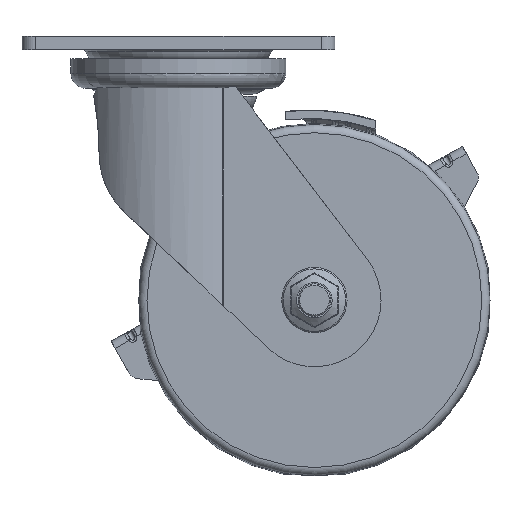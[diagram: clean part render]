
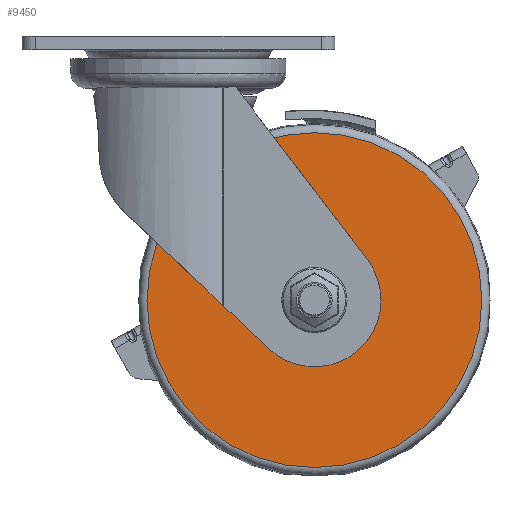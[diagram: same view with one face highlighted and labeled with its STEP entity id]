
A CAD part, front view. The second image highlights one B-rep face of the part: STEP entity #9450.
In plain terms, the highlighted planar face has unit normal (0, -1, 0).
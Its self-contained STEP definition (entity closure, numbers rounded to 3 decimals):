
#292=FACE_BOUND('',#3099,.T.);
#425=PLANE('',#10525);
#2515=FACE_OUTER_BOUND('',#3098,.T.);
#3098=EDGE_LOOP('',(#8505));
#3099=EDGE_LOOP('',(#8506));
#3249=CIRCLE('',#9611,61.556);
#3252=CIRCLE('',#9616,10.);
#3789=VERTEX_POINT('',#13713);
#3791=VERTEX_POINT('',#13721);
#4683=EDGE_CURVE('',#3789,#3789,#3249,.T.);
#4686=EDGE_CURVE('',#3791,#3791,#3252,.T.);
#8505=ORIENTED_EDGE('',*,*,#4683,.F.);
#8506=ORIENTED_EDGE('',*,*,#4686,.T.);
#9450=ADVANCED_FACE('',(#2515,#292),#425,.T.);
#9611=AXIS2_PLACEMENT_3D('',#13715,#10793,#10794);
#9616=AXIS2_PLACEMENT_3D('',#13722,#10803,#10804);
#10525=AXIS2_PLACEMENT_3D('',#24743,#13079,#13080);
#10793=DIRECTION('center_axis',(0.,1.,0.));
#10794=DIRECTION('ref_axis',(0.,0.,1.));
#10803=DIRECTION('center_axis',(0.,1.,0.));
#10804=DIRECTION('ref_axis',(0.,0.,1.));
#13079=DIRECTION('center_axis',(0.,-1.,0.));
#13080=DIRECTION('ref_axis',(0.,0.,-1.));
#13713=CARTESIAN_POINT('',(-67.607,-269.543,173.879));
#13715=CARTESIAN_POINT('Origin',(-67.607,-269.543,235.436));
#13721=CARTESIAN_POINT('',(-67.607,-269.543,225.436));
#13722=CARTESIAN_POINT('Origin',(-67.607,-269.543,235.436));
#24743=CARTESIAN_POINT('Origin',(-67.607,-269.543,271.214));
